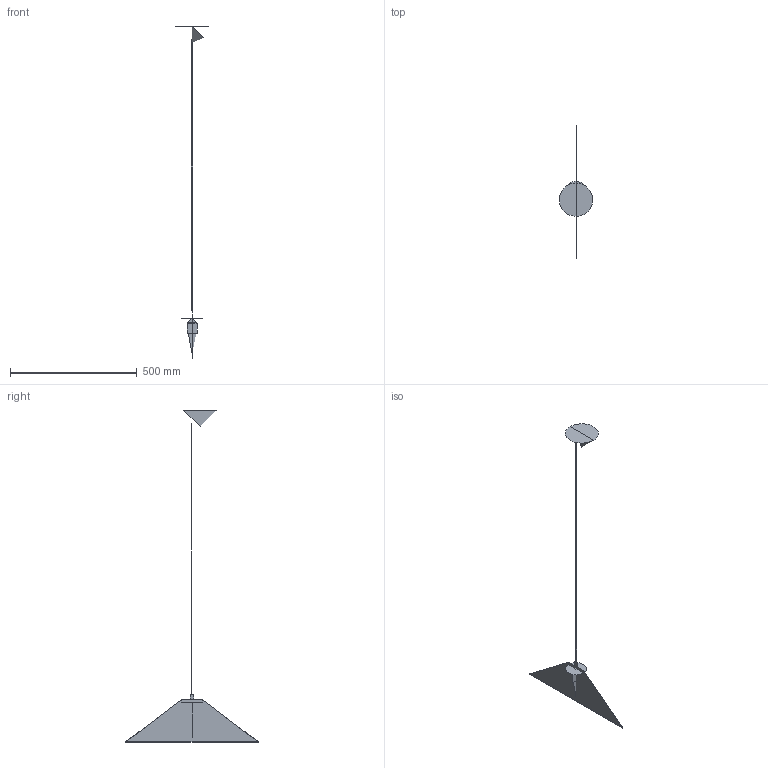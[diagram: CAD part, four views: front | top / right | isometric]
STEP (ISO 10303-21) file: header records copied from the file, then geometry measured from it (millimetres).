
FILE_DESCRIPTION(/* description */ (''),/* implementation_level */ '2;1');
FILE_NAME(/* name */ 'aggregato d52',/* time_stamp */ '2016-04-29T16:40:45+02:00',/* author */ (''),/* organization */ (''),/* preprocessor_version */ 'ST-DEVELOPER v15',/* originating_system */ '',/* authorisation */ '');
FILE_SCHEMA (('AUTOMOTIVE_DESIGN'));
Length unit declared in the file: millimetre
Products named in the file (2): Document; Blocco 06
Assembly tree (1 placements, depth 2):
  Document
    Blocco 06
Bounding box: 131.4 x 523 x 1311.82 mm (x, y, z)
Surface area: 629008.8 mm2 (no closed solid volume)
Topology: 0 solids, 34 shells, 34 faces, 139 edges, 134 vertices
Faces by surface type: bspline 24, plane 10
Entity records: 1844 total; most frequent: CARTESIAN_POINT 1136, ORIENTED_EDGE 128, EDGE_CURVE 128, VERTEX_POINT 128, PRESENTATION_LAYER_ASSIGNMENT 41, SHELL_BASED_SURFACE_MODEL 34, OPEN_SHELL 34, ADVANCED_FACE 34
